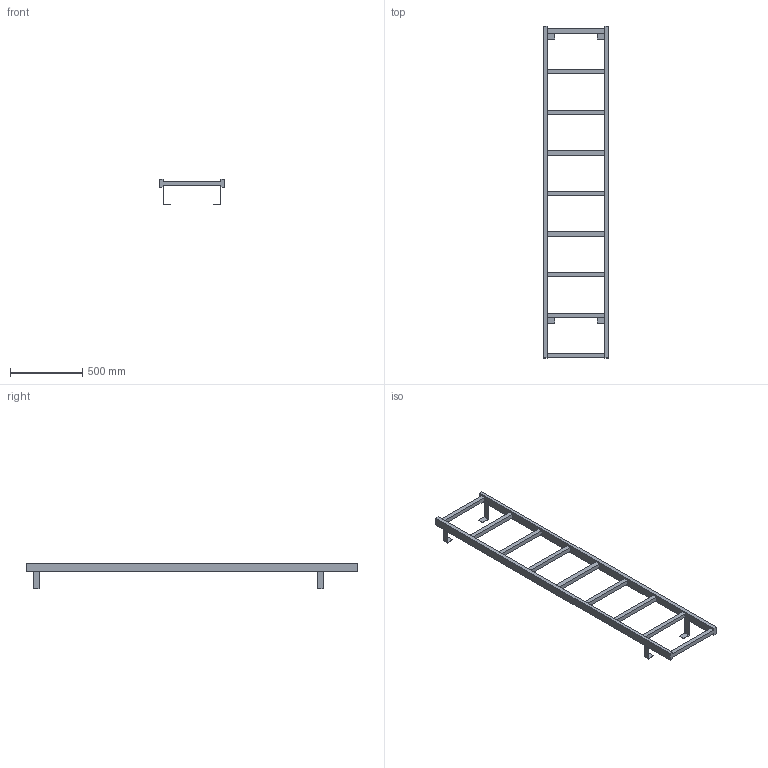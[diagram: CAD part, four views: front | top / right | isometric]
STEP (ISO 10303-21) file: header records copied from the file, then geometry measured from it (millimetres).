
FILE_DESCRIPTION((''),'2;1');
FILE_NAME('52311086','2024-10-17T13:07:50',('wep'),('HUBER SE'),'CREO PARAMETRIC BY PTC INC, 2022162','CREO PARAMETRIC BY PTC INC, 2022162','');
FILE_SCHEMA(('AUTOMOTIVE_DESIGN { 1 0 10303 214 1 1 1 1 }'));
Length unit declared in the file: millimetre
Products named in the file (1): 52311086
Bounding box: 450 x 2290 x 178.5 mm (x, y, z)
Volume: 9831460 mm3; surface area: 1232108 mm2
Topology: 1 solids, 1 shells, 78 faces, 228 edges, 148 vertices
Faces by surface type: plane 78
Entity records: 3117 total; most frequent: CARTESIAN_POINT 456, ORIENTED_EDGE 456, DIRECTION 384, VECTOR 228, LINE 228, EDGE_CURVE 228, VERTEX_POINT 148, COLOUR_RGB 106
